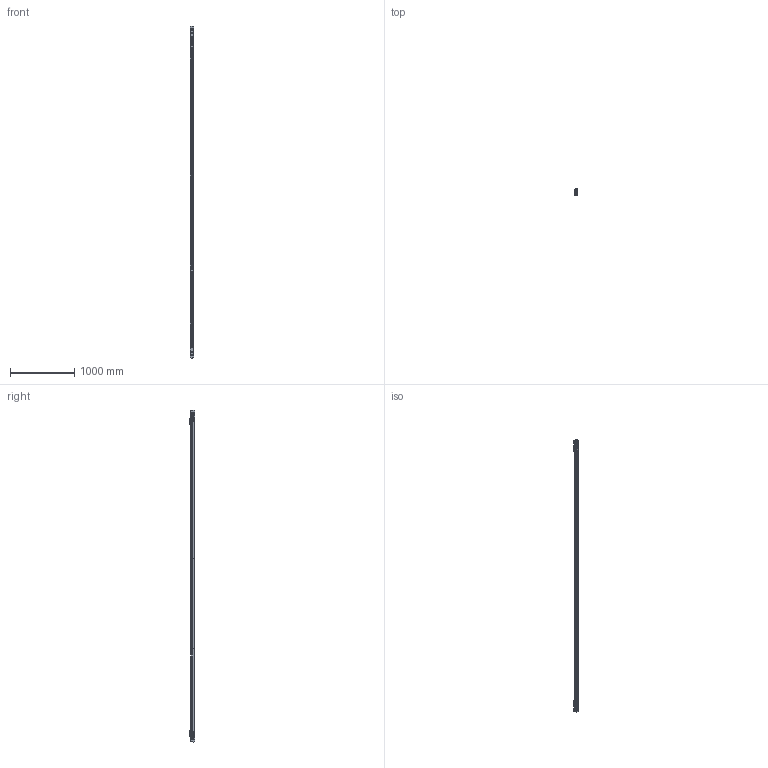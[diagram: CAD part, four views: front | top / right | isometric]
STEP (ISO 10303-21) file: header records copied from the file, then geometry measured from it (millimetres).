
FILE_DESCRIPTION(('Creo Elements/Direct Modeling STEP Export'),'2;1');
FILE_NAME('L-48.stp','2011-11-29T18:30:55',(''),(''),'Creo Elements/Direct Modeling STEP processor for AP214 (Solid Model)','Creo Elements/Direct Modeling 17.0C 05-Feb-2011 (C) Parametric Technology GmbH','');
FILE_SCHEMA(('AUTOMOTIVE_DESIGN { 1 0 10303 214 1 1 1 1 }'));
Length unit declared in the file: millimetre
Products named in the file (5): Modulo_der_(20-ET); CABEZA; Modulo_izq_(L-KT); Modulos_intermedio_(FL-14); L-48
Assembly tree (5 placements, depth 2):
  L-48
    CABEZA  x2
    Modulos_intermedio_(FL-14)
    Modulo_izq_(L-KT)
    Modulo_der_(20-ET)
Bounding box: 51.5 x 87.95 x 5149.1 mm (x, y, z)
Volume: 7398881.7 mm3; surface area: 1586256 mm2
Topology: 27 solids, 92 shells, 4258 faces, 11755 edges, 7635 vertices
Faces by surface type: cylinder 1933, plane 1725, cone 308, torus 172, bspline 70, sphere 30, extrusion 20
Entity records: 130207 total; most frequent: CARTESIAN_POINT 38025, ORIENTED_EDGE 19494, DIRECTION 17368, EDGE_CURVE 9727, VERTEX_POINT 6307, AXIS2_PLACEMENT_3D 6168, VECTOR 5032, LINE 5012
